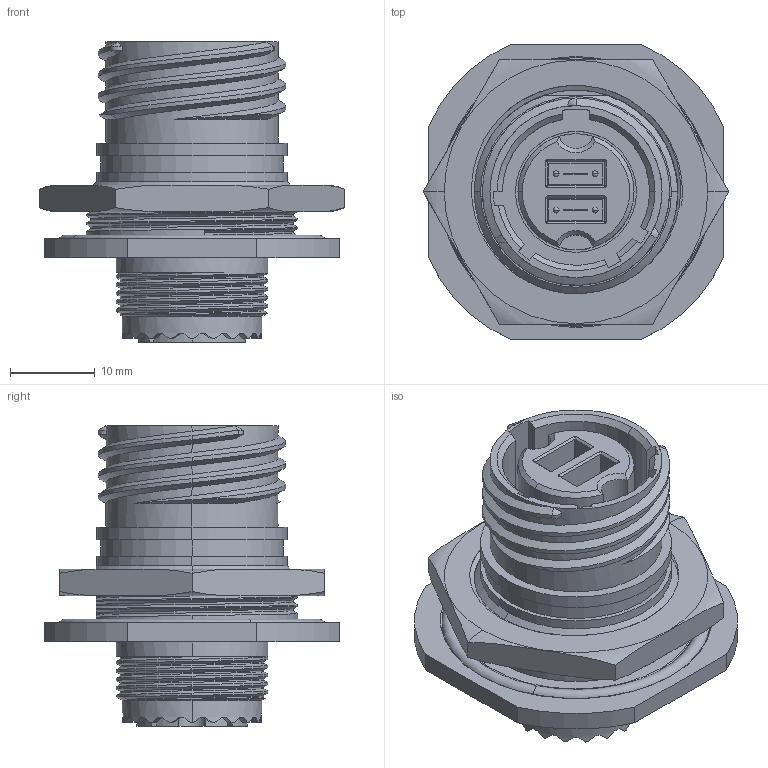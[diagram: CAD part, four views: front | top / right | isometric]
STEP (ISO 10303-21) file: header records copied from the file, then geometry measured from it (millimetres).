
FILE_DESCRIPTION (( 'STEP AP214' ), '1' );
FILE_NAME ('Q38MT-RJX-13XX-X.STEP', '2025-08-29T20:51:10', ( '' ), ( '' ), 'SwSTEP 2.0', 'SolidWorks 2024', '' );
FILE_SCHEMA (( 'AUTOMOTIVE_DESIGN' ));
Length unit declared in the file: inch
Products named in the file (1): Q38MT-RJX-13XX-X
Bounding box: 36.08 x 34.9 x 35.43 mm (x, y, z)
Volume: 12683.2 mm3; surface area: 9692.1 mm2
Topology: 2 solids, 2 shells, 537 faces, 1391 edges, 894 vertices
Faces by surface type: plane 217, cylinder 207, cone 56, bspline 31, torus 18, sphere 8
Entity records: 24299 total; most frequent: CARTESIAN_POINT 11758, ORIENTED_EDGE 2766, DIRECTION 2549, EDGE_CURVE 1383, AXIS2_PLACEMENT_3D 1009, VERTEX_POINT 894, EDGE_LOOP 591, ADVANCED_FACE 537
